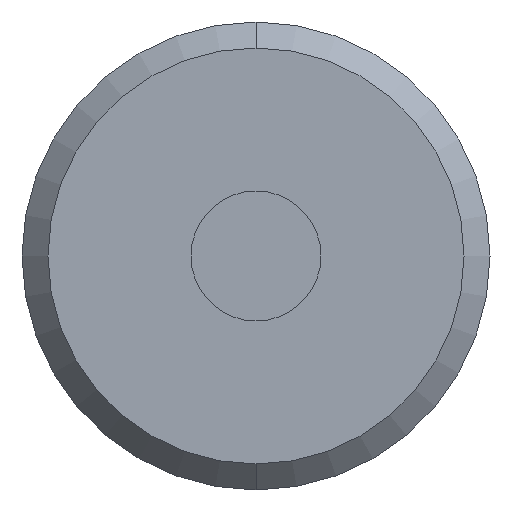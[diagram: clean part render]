
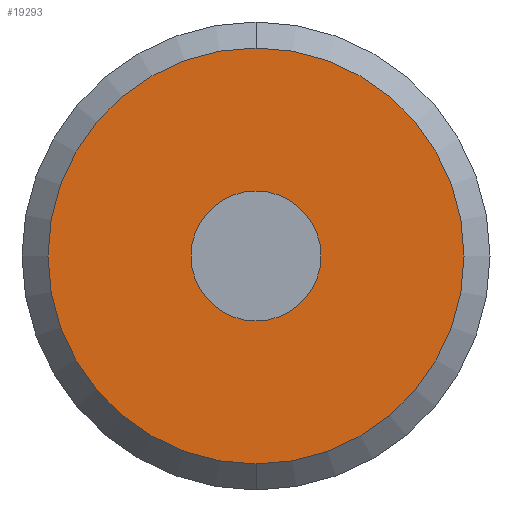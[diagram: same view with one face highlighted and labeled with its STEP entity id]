
A CAD part, front view. The second image highlights one B-rep face of the part: STEP entity #19293.
In plain terms, the highlighted planar face has unit normal (0, -1, 0).
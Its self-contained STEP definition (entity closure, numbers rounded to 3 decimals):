
#18896=CARTESIAN_POINT('',(14.231,-0.094,0.));
#18897=DIRECTION('',(0.,1.,0.));
#18898=DIRECTION('',(0.,0.,1.));
#18899=AXIS2_PLACEMENT_3D('',#18896,#18897,#18898);
#18901=CARTESIAN_POINT('',(14.231,-0.094,0.));
#18902=DIRECTION('',(0.,1.,0.));
#18903=DIRECTION('',(0.,0.,-1.));
#18904=AXIS2_PLACEMENT_3D('',#18901,#18902,#18903);
#18910=CARTESIAN_POINT('',(14.231,-0.094,0.));
#18911=DIRECTION('',(0.,1.,0.));
#18912=DIRECTION('',(0.,0.,-1.));
#18913=AXIS2_PLACEMENT_3D('',#18910,#18911,#18912);
#18915=CARTESIAN_POINT('',(14.231,-0.094,0.));
#18916=DIRECTION('',(0.,1.,0.));
#18917=DIRECTION('',(0.,0.,1.));
#18918=AXIS2_PLACEMENT_3D('',#18915,#18916,#18917);
#19052=CARTESIAN_POINT('',(14.231,-0.094,-0.25));
#19053=CARTESIAN_POINT('',(14.231,-0.094,0.25));
#19054=VERTEX_POINT('',#19052);
#19055=VERTEX_POINT('',#19053);
#19086=CARTESIAN_POINT('',(14.231,-0.094,0.8));
#19087=CARTESIAN_POINT('',(14.231,-0.094,-0.8));
#19088=VERTEX_POINT('',#19086);
#19089=VERTEX_POINT('',#19087);
#19278=CARTESIAN_POINT('',(14.231,-0.094,0.));
#19279=DIRECTION('',(0.,1.,0.));
#19280=DIRECTION('',(0.,0.,1.));
#19281=AXIS2_PLACEMENT_3D('',#19278,#19279,#19280);
#19282=PLANE('',#19281);
#19284=ORIENTED_EDGE('',*,*,#19283,.T.);
#19286=ORIENTED_EDGE('',*,*,#19285,.T.);
#19287=EDGE_LOOP('',(#19284,#19286));
#19288=FACE_OUTER_BOUND('',#19287,.F.);
#19289=ORIENTED_EDGE('',*,*,#19271,.F.);
#19290=ORIENTED_EDGE('',*,*,#19258,.F.);
#19291=EDGE_LOOP('',(#19289,#19290));
#19292=FACE_BOUND('',#19291,.F.);
#19293=ADVANCED_FACE('',(#19288,#19292),#19282,.F.);
#18900=CIRCLE('',#18899,0.25);
#18905=CIRCLE('',#18904,0.25);
#18914=CIRCLE('',#18913,0.8);
#18919=CIRCLE('',#18918,0.8);
#19258=EDGE_CURVE('',#19054,#19055,#18905,.T.);
#19271=EDGE_CURVE('',#19055,#19054,#18900,.T.);
#19283=EDGE_CURVE('',#19089,#19088,#18914,.T.);
#19285=EDGE_CURVE('',#19088,#19089,#18919,.T.);
